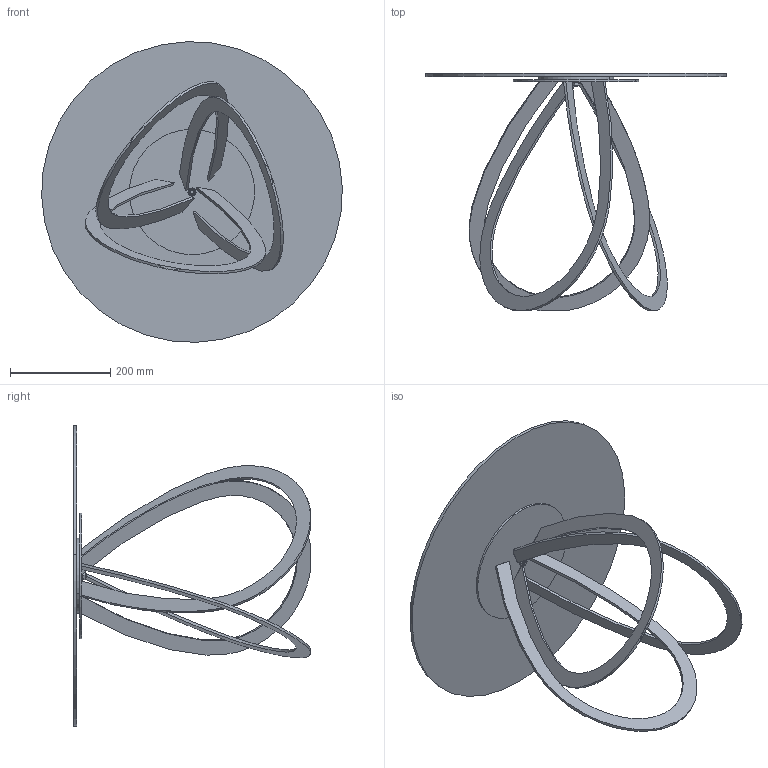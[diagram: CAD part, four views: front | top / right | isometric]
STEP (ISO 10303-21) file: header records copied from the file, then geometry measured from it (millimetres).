
FILE_DESCRIPTION (( 'STEP AP203' ), '1' );
FILE_NAME ('FL01G_Febe Low_d60xh48_Glass.STEP', '2024-08-06T08:55:31', ( '' ), ( '' ), 'SwSTEP 2.0', 'SolidWorks 2022', '' );
FILE_SCHEMA (( 'CONFIG_CONTROL_DESIGN' ));
Length unit declared in the file: millimetre
Products named in the file (10): CXXCRXX-00-Piani Rotondi in Cristallo CON PIASTRA_C01P PIANO CRISTALLO D.60cm; rondella M8_8X16; FET000000XX-00-FEBE STRUTTURA BASE H.XXcm_FEBE 80; FET00000048_01-00-FEBE DISCO METALLO SUPERIORE H.48cm_pos. gambe 500; GRANO M8_barra; C1XCRMXX-00-piani Rotondi Cristallo_C01 D.60cm; P0000006-00-PIASTRA D.150mm X PIANI CER_CRI_MARMO_PIASTRA; FET00000048_02-00-FEBE GAMBA PER H.48cm_gamba per febe 80; FL01G_Febe Low_d60xh48_Glass; nut_M8_M8
Assembly tree (11 placements, depth 3):
  FL01G_Febe Low_d60xh48_Glass
    CXXCRXX-00-Piani Rotondi in Cristallo CON PIASTRA_C01P PIANO CRISTALLO D.60cm
      C1XCRMXX-00-piani Rotondi Cristallo_C01 D.60cm
      P0000006-00-PIASTRA D.150mm X PIANI CER_CRI_MARMO_PIASTRA
    FET000000XX-00-FEBE STRUTTURA BASE H.XXcm_FEBE 80
      FET00000048_02-00-FEBE GAMBA PER H.48cm_gamba per febe 80  x3
      FET00000048_01-00-FEBE DISCO METALLO SUPERIORE H.48cm_pos. gambe 500
    GRANO M8_barra
    nut_M8_M8
    rondella M8_8X16
Bounding box: 599.68 x 472.62 x 599.68 mm (x, y, z)
Volume: 2537262.5 mm3; surface area: 967482.7 mm2
Topology: 9 solids, 9 shells, 119 faces, 266 edges, 171 vertices
Faces by surface type: plane 51, cylinder 36, bspline 12, cone 12, torus 8
Entity records: 4350 total; most frequent: CARTESIAN_POINT 930, DIRECTION 522, ORIENTED_EDGE 452, EDGE_CURVE 226, AXIS2_PLACEMENT_3D 213, VERTEX_POINT 145, EDGE_LOOP 121, FACE_OUTER_BOUND 101
